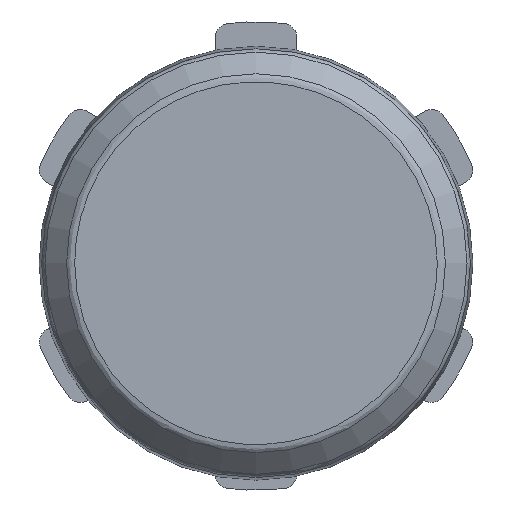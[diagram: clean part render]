
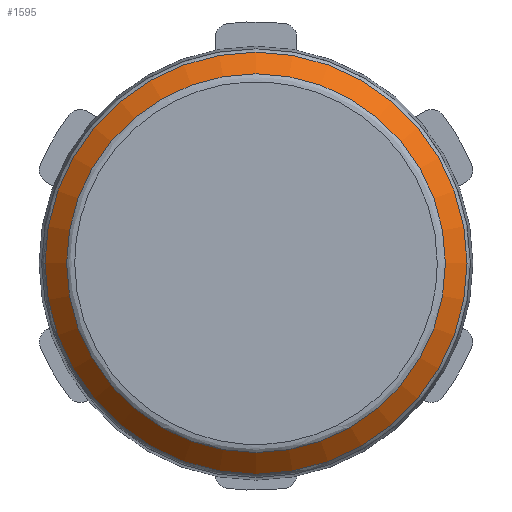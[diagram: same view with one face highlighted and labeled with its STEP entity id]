
A CAD part, front view. The second image highlights one B-rep face of the part: STEP entity #1595.
In plain terms, the highlighted conical face has half-angle 45 degrees and reference radius 14.686 mm.
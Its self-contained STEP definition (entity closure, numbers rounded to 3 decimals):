
#360 = DIRECTION ( 'NONE',  ( 1., 0., 0. ) ) ;
#1595 = ADVANCED_FACE ( 'NONE', ( #28361, #29447 ), #36723, .T. ) ;
#1981 = DIRECTION ( 'NONE',  ( 1., 0., 0. ) ) ;
#2676 = CARTESIAN_POINT ( 'NONE',  ( 0., -2.618, 0. ) ) ;
#8193 = ORIENTED_EDGE ( 'NONE', *, *, #44840, .F. ) ;
#12486 = VERTEX_POINT ( 'NONE', #26176 ) ;
#13542 = EDGE_CURVE ( 'NONE', #12486, #12486, #30375, .T. ) ;
#18210 = ORIENTED_EDGE ( 'NONE', *, *, #13542, .T. ) ;
#18711 = CIRCLE ( 'NONE', #35055, 13.184 ) ;
#20720 = EDGE_LOOP ( 'NONE', ( #8193 ) ) ;
#21799 = DIRECTION ( 'NONE',  ( 0., -1., 0. ) ) ;
#21835 = EDGE_LOOP ( 'NONE', ( #18210 ) ) ;
#23438 = DIRECTION ( 'NONE',  ( 0., -1., 0. ) ) ;
#26176 = CARTESIAN_POINT ( 'NONE',  ( 14.686, -2.618, 0. ) ) ;
#28361 = FACE_OUTER_BOUND ( 'NONE', #21835, .T. ) ;
#29447 = FACE_BOUND ( 'NONE', #20720, .T. ) ;
#30375 = CIRCLE ( 'NONE', #40756, 14.686 ) ;
#35055 = AXIS2_PLACEMENT_3D ( 'NONE', #44932, #23438, #1981 ) ;
#36723 = CONICAL_SURFACE ( 'NONE', #45183, 14.686, 0.785 ) ;
#38866 = VERTEX_POINT ( 'NONE', #44225 ) ;
#40756 = AXIS2_PLACEMENT_3D ( 'NONE', #43289, #21799, #360 ) ;
#41808 = DIRECTION ( 'NONE',  ( 0., 0., 1. ) ) ;
#42276 = DIRECTION ( 'NONE',  ( 0., 1., 0. ) ) ;
#43289 = CARTESIAN_POINT ( 'NONE',  ( 0., -2.618, 0. ) ) ;
#44225 = CARTESIAN_POINT ( 'NONE',  ( 13.184, -4.12, 0. ) ) ;
#44840 = EDGE_CURVE ( 'NONE', #38866, #38866, #18711, .T. ) ;
#44932 = CARTESIAN_POINT ( 'NONE',  ( 0., -4.12, 0. ) ) ;
#45183 = AXIS2_PLACEMENT_3D ( 'NONE', #2676, #42276, #41808 ) ;
